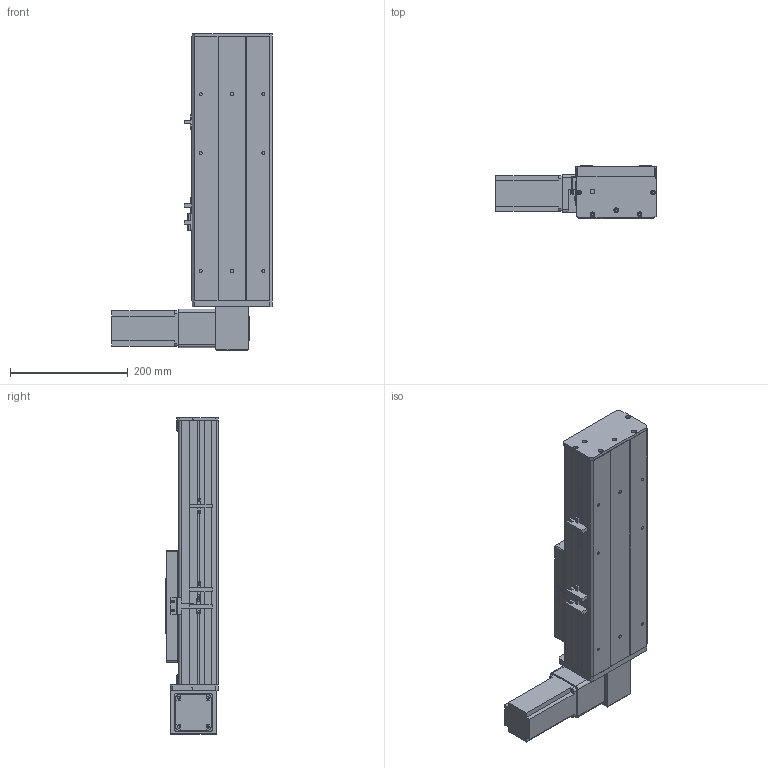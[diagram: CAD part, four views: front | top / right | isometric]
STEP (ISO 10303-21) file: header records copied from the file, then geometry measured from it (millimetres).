
FILE_DESCRIPTION (( 'STEP AP203' ), '1' );
FILE_NAME ('Y135CB-D90-S150-BD-P400W.STEP', '2020-02-19T02:48:48', ( '微软用户' ), ( '微软中国' ), 'SwSTEP 2.0', 'SolidWorks 2017', '' );
FILE_SCHEMA (( 'CONFIG_CONTROL_DESIGN' ));
Length unit declared in the file: millimetre
Products named in the file (16): Y10B--々湍喘謫眊--666; 0B-源倛裔啣; 0B-薊粣ん眊; 5CB --掛极耜裔啣-; Y135CB-D90-S150-BD-P400W; C-詩湍揤踡え-陔; 135CB--詩湍-CE; Y100-135俋离換覜ん--; Y135CB-耜裔; san松下电机400不带刹车----; Y135C-陔俋离換覜結え-; 135CB---遴掛极.-; 5C--俋欶; 35CB---喘謫眊楊擘啣; C-雄赽釱--; 0B-埴倛裔啣
Assembly tree (19 placements, depth 2):
  Y135CB-D90-S150-BD-P400W
    Y135CB-耜裔
    135CB---遴掛极.-
    35CB---喘謫眊楊擘啣
    0B-埴倛裔啣
    0B-源倛裔啣
    san松下电机400不带刹车----
    5CB --掛极耜裔啣-  x2
    C-詩湍揤踡え-陔  x2
    135CB--詩湍-CE
    Y100-135俋离換覜ん--  x3
    Y135C-陔俋离換覜結え-
    5C--俋欶
    C-雄赽釱--
    Y10B--々湍喘謫眊--666
    0B-薊粣ん眊
Bounding box: 272 x 91 x 538 mm (x, y, z)
Volume: 2179360.9 mm3; surface area: 786379.4 mm2
Topology: 19 solids, 19 shells, 839 faces, 2194 edges, 1452 vertices
Faces by surface type: plane 415, cylinder 408, cone 16
Entity records: 25198 total; most frequent: DIRECTION 4198, CARTESIAN_POINT 4071, ORIENTED_EDGE 3864, EDGE_CURVE 1932, AXIS2_PLACEMENT_3D 1531, VERTEX_POINT 1280, VECTOR 1136, LINE 1136
